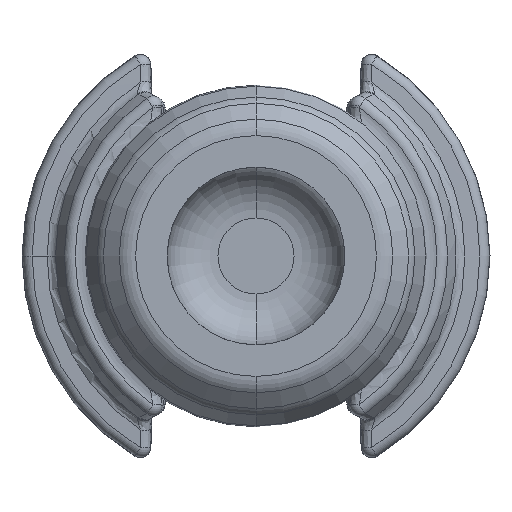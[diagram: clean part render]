
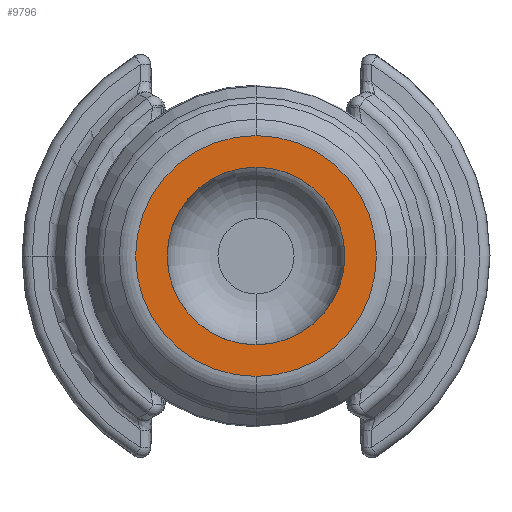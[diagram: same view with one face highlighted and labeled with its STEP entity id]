
A CAD part, front view. The second image highlights one B-rep face of the part: STEP entity #9796.
In plain terms, the highlighted planar face has unit normal (0, -1, 0).
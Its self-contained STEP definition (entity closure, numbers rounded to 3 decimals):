
#12 = CARTESIAN_POINT ( 'NONE',  ( 0., -4.25, -1.75 ) ) ;
#42 = EDGE_CURVE ( 'NONE', #1245, #6748, #7166, .T. ) ;
#315 = AXIS2_PLACEMENT_3D ( 'NONE', #3133, #8902, #753 ) ;
#344 = VERTEX_POINT ( 'NONE', #3738 ) ;
#753 = DIRECTION ( 'NONE',  ( 0., 0., 1. ) ) ;
#1118 = ORIENTED_EDGE ( 'NONE', *, *, #1549, .T. ) ;
#1154 = ORIENTED_EDGE ( 'NONE', *, *, #5339, .T. ) ;
#1245 = VERTEX_POINT ( 'NONE', #7291 ) ;
#1536 = VERTEX_POINT ( 'NONE', #5473 ) ;
#1549 = EDGE_CURVE ( 'NONE', #344, #1536, #4921, .T. ) ;
#1882 = DIRECTION ( 'NONE',  ( 0., 1., 0. ) ) ;
#1910 = DIRECTION ( 'NONE',  ( 0., 0., 1. ) ) ;
#2417 = DIRECTION ( 'NONE',  ( 0., -1., 0. ) ) ;
#2470 = DIRECTION ( 'NONE',  ( 0., 0., 1. ) ) ;
#3116 = CIRCLE ( 'NONE', #8752, 2.372 ) ;
#3133 = CARTESIAN_POINT ( 'NONE',  ( 0., -4.25, 0. ) ) ;
#3177 = CARTESIAN_POINT ( 'NONE',  ( 5., -4.25, -4.6 ) ) ;
#3279 = PLANE ( 'NONE',  #5802 ) ;
#3329 = FACE_BOUND ( 'NONE', #3540, .T. ) ;
#3499 = CARTESIAN_POINT ( 'NONE',  ( 0., -4.25, 0. ) ) ;
#3540 = EDGE_LOOP ( 'NONE', ( #4814, #1154 ) ) ;
#3738 = CARTESIAN_POINT ( 'NONE',  ( 0., -4.25, 2.372 ) ) ;
#4170 = DIRECTION ( 'NONE',  ( 0., 1., 0. ) ) ;
#4297 = DIRECTION ( 'NONE',  ( 0., 0., 1. ) ) ;
#4814 = ORIENTED_EDGE ( 'NONE', *, *, #42, .T. ) ;
#4921 = CIRCLE ( 'NONE', #315, 2.372 ) ;
#5339 = EDGE_CURVE ( 'NONE', #6748, #1245, #10436, .T. ) ;
#5466 = EDGE_LOOP ( 'NONE', ( #1118, #6210 ) ) ;
#5473 = CARTESIAN_POINT ( 'NONE',  ( 0., -4.25, -2.372 ) ) ;
#5802 = AXIS2_PLACEMENT_3D ( 'NONE', #3177, #9837, #9794 ) ;
#6210 = ORIENTED_EDGE ( 'NONE', *, *, #8388, .T. ) ;
#6580 = FACE_OUTER_BOUND ( 'NONE', #5466, .T. ) ;
#6748 = VERTEX_POINT ( 'NONE', #12 ) ;
#7166 = CIRCLE ( 'NONE', #9894, 1.75 ) ;
#7291 = CARTESIAN_POINT ( 'NONE',  ( 0., -4.25, 1.75 ) ) ;
#8388 = EDGE_CURVE ( 'NONE', #1536, #344, #3116, .T. ) ;
#8752 = AXIS2_PLACEMENT_3D ( 'NONE', #9732, #2417, #2470 ) ;
#8902 = DIRECTION ( 'NONE',  ( 0., -1., 0. ) ) ;
#9732 = CARTESIAN_POINT ( 'NONE',  ( 0., -4.25, 0. ) ) ;
#9794 = DIRECTION ( 'NONE',  ( 0., 0., 1. ) ) ;
#9796 = ADVANCED_FACE ( 'NONE', ( #3329, #6580 ), #3279, .F. ) ;
#9828 = CARTESIAN_POINT ( 'NONE',  ( 0., -4.25, 0. ) ) ;
#9837 = DIRECTION ( 'NONE',  ( 0., 1., 0. ) ) ;
#9894 = AXIS2_PLACEMENT_3D ( 'NONE', #9828, #4170, #1910 ) ;
#10268 = AXIS2_PLACEMENT_3D ( 'NONE', #3499, #1882, #4297 ) ;
#10436 = CIRCLE ( 'NONE', #10268, 1.75 ) ;
